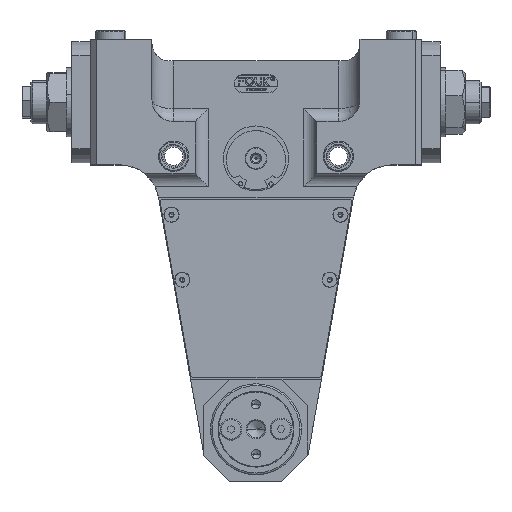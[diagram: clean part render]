
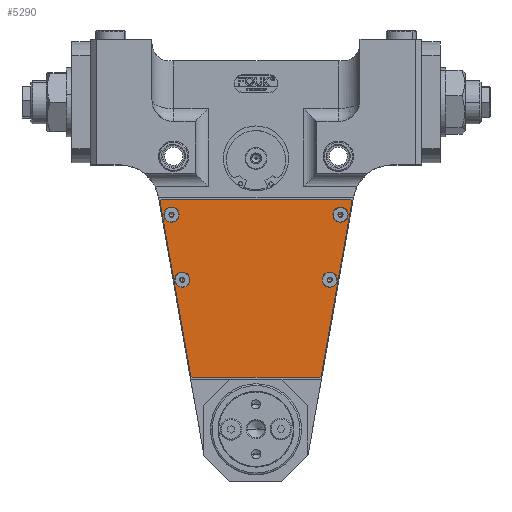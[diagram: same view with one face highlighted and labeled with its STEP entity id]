
A CAD part, top view. The second image highlights one B-rep face of the part: STEP entity #5290.
In plain terms, the highlighted planar face has unit normal (0, 0, 1) as drawn and (0, 1, 0) by its records, which use the part's own axes.
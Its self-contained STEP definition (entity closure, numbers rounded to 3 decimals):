
#729 = CARTESIAN_POINT ( 'NONE',  ( -34., 2., -41.5 ) ) ;
#1871 = CIRCLE ( 'NONE', #40702, 3.5 ) ;
#2258 = VERTEX_POINT ( 'NONE', #5914 ) ;
#2343 = VERTEX_POINT ( 'NONE', #31703 ) ;
#2353 = EDGE_LOOP ( 'NONE', ( #36766, #3675 ) ) ;
#3675 = ORIENTED_EDGE ( 'NONE', *, *, #44816, .F. ) ;
#4254 = DIRECTION ( 'NONE',  ( 0., 0., 1. ) ) ;
#4447 = AXIS2_PLACEMENT_3D ( 'NONE', #13728, #42360, #41658 ) ;
#4550 = EDGE_CURVE ( 'NONE', #13744, #2343, #25316, .T. ) ;
#4574 = ORIENTED_EDGE ( 'NONE', *, *, #36268, .T. ) ;
#4706 = DIRECTION ( 'NONE',  ( 0., 0., 1. ) ) ;
#4820 = AXIS2_PLACEMENT_3D ( 'NONE', #21253, #5458, #38092 ) ;
#4830 = DIRECTION ( 'NONE',  ( 0., 1., 0. ) ) ;
#5269 = CARTESIAN_POINT ( 'NONE',  ( 34., 2., -48.5 ) ) ;
#5290 = ADVANCED_FACE ( 'NONE', ( #47597, #35428, #7169, #50189, #18113 ), #34151, .T. ) ;
#5379 = ORIENTED_EDGE ( 'NONE', *, *, #34060, .F. ) ;
#5458 = DIRECTION ( 'NONE',  ( 0., 1., 0. ) ) ;
#5914 = CARTESIAN_POINT ( 'NONE',  ( -29.161, 2., 0. ) ) ;
#5971 = ORIENTED_EDGE ( 'NONE', *, *, #39002, .F. ) ;
#6063 = DIRECTION ( 'NONE',  ( 0., 0., 1. ) ) ;
#6230 = EDGE_CURVE ( 'NONE', #17165, #34585, #19336, .T. ) ;
#6670 = DIRECTION ( 'NONE',  ( 0., 1., 0. ) ) ;
#7169 = FACE_BOUND ( 'NONE', #34786, .T. ) ;
#7852 = VERTEX_POINT ( 'NONE', #34294 ) ;
#8026 = AXIS2_PLACEMENT_3D ( 'NONE', #25101, #4830, #16525 ) ;
#8166 = DIRECTION ( 'NONE',  ( 0., 0., 1. ) ) ;
#8310 = DIRECTION ( 'NONE',  ( 0., 0., 1. ) ) ;
#9327 = AXIS2_PLACEMENT_3D ( 'NONE', #43292, #23405, #47421 ) ;
#9975 = VECTOR ( 'NONE', #28213, 1000. ) ;
#10066 = CIRCLE ( 'NONE', #15926, 1. ) ;
#11406 = CARTESIAN_POINT ( 'NONE',  ( -30.146, 2., -0.826 ) ) ;
#11444 = CARTESIAN_POINT ( 'NONE',  ( -39., 2., -75. ) ) ;
#11598 = DIRECTION ( 'NONE',  ( 0., 1., 0. ) ) ;
#11980 = EDGE_LOOP ( 'NONE', ( #30671, #21755 ) ) ;
#12806 = ORIENTED_EDGE ( 'NONE', *, *, #19024, .F. ) ;
#13524 = CARTESIAN_POINT ( 'NONE',  ( -29.161, 2., -1. ) ) ;
#13728 = CARTESIAN_POINT ( 'NONE',  ( 39., 2., -75. ) ) ;
#13744 = VERTEX_POINT ( 'NONE', #49157 ) ;
#13979 = ORIENTED_EDGE ( 'NONE', *, *, #31067, .T. ) ;
#14110 = CARTESIAN_POINT ( 'NONE',  ( 34., 2., -41.5 ) ) ;
#14330 = ORIENTED_EDGE ( 'NONE', *, *, #24848, .T. ) ;
#14362 = EDGE_CURVE ( 'NONE', #47640, #23132, #32224, .T. ) ;
#14712 = AXIS2_PLACEMENT_3D ( 'NONE', #28800, #20006, #8166 ) ;
#15295 = CARTESIAN_POINT ( 'NONE',  ( -44.252, 2., -80.826 ) ) ;
#15828 = ORIENTED_EDGE ( 'NONE', *, *, #17955, .T. ) ;
#15926 = AXIS2_PLACEMENT_3D ( 'NONE', #19215, #6670, #27822 ) ;
#16525 = DIRECTION ( 'NONE',  ( 0., 0., 1. ) ) ;
#17165 = VERTEX_POINT ( 'NONE', #22574 ) ;
#17571 = AXIS2_PLACEMENT_3D ( 'NONE', #45425, #45598, #8310 ) ;
#17863 = DIRECTION ( 'NONE',  ( 0., 1., 0. ) ) ;
#17955 = EDGE_CURVE ( 'NONE', #52794, #30694, #49733, .T. ) ;
#17961 = CIRCLE ( 'NONE', #17571, 3.5 ) ;
#18113 = FACE_OUTER_BOUND ( 'NONE', #49216, .T. ) ;
#18274 = ORIENTED_EDGE ( 'NONE', *, *, #14362, .T. ) ;
#19024 = EDGE_CURVE ( 'NONE', #45216, #19966, #22807, .T. ) ;
#19215 = CARTESIAN_POINT ( 'NONE',  ( 29.161, 2., -1. ) ) ;
#19299 = ORIENTED_EDGE ( 'NONE', *, *, #29130, .F. ) ;
#19336 = CIRCLE ( 'NONE', #14712, 3.5 ) ;
#19446 = CIRCLE ( 'NONE', #4447, 3.5 ) ;
#19966 = VERTEX_POINT ( 'NONE', #5269 ) ;
#20006 = DIRECTION ( 'NONE',  ( 0., 1., 0. ) ) ;
#20515 = VERTEX_POINT ( 'NONE', #37641 ) ;
#21253 = CARTESIAN_POINT ( 'NONE',  ( -34., 2., -45. ) ) ;
#21450 = VERTEX_POINT ( 'NONE', #44306 ) ;
#21755 = ORIENTED_EDGE ( 'NONE', *, *, #6230, .F. ) ;
#22248 = CARTESIAN_POINT ( 'NONE',  ( 44.459, 2., -82. ) ) ;
#22574 = CARTESIAN_POINT ( 'NONE',  ( -34., 2., -48.5 ) ) ;
#22807 = CIRCLE ( 'NONE', #43543, 3.5 ) ;
#23129 = EDGE_CURVE ( 'NONE', #2343, #47640, #48136, .T. ) ;
#23132 = VERTEX_POINT ( 'NONE', #11406 ) ;
#23169 = CIRCLE ( 'NONE', #4820, 3.5 ) ;
#23405 = DIRECTION ( 'NONE',  ( 0., 1., 0. ) ) ;
#23440 = DIRECTION ( 'NONE',  ( 0.174, 0., 0.985 ) ) ;
#24524 = DIRECTION ( 'NONE',  ( 0., 1., 0. ) ) ;
#24848 = EDGE_CURVE ( 'NONE', #30694, #13744, #40988, .T. ) ;
#25101 = CARTESIAN_POINT ( 'NONE',  ( 34., 2., -45. ) ) ;
#25316 = LINE ( 'NONE', #22248, #50350 ) ;
#26450 = CARTESIAN_POINT ( 'NONE',  ( 0., 2., 0. ) ) ;
#27094 = ORIENTED_EDGE ( 'NONE', *, *, #43837, .T. ) ;
#27332 = LINE ( 'NONE', #38462, #48508 ) ;
#27751 = AXIS2_PLACEMENT_3D ( 'NONE', #13524, #29279, #4706 ) ;
#27822 = DIRECTION ( 'NONE',  ( 0., 0., 1. ) ) ;
#28213 = DIRECTION ( 'NONE',  ( 0.174, 0., -0.985 ) ) ;
#28286 = CARTESIAN_POINT ( 'NONE',  ( 34., 2., -45. ) ) ;
#28800 = CARTESIAN_POINT ( 'NONE',  ( -34., 2., -45. ) ) ;
#29130 = EDGE_CURVE ( 'NONE', #49253, #20515, #1871, .T. ) ;
#29279 = DIRECTION ( 'NONE',  ( 0., 1., 0. ) ) ;
#30372 = CIRCLE ( 'NONE', #8026, 3.5 ) ;
#30671 = ORIENTED_EDGE ( 'NONE', *, *, #45720, .F. ) ;
#30694 = VERTEX_POINT ( 'NONE', #51205 ) ;
#30798 = CARTESIAN_POINT ( 'NONE',  ( 39., 2., -75. ) ) ;
#31067 = EDGE_CURVE ( 'NONE', #2258, #21450, #27332, .T. ) ;
#31413 = VERTEX_POINT ( 'NONE', #48622 ) ;
#31703 = CARTESIAN_POINT ( 'NONE',  ( -43.267, 2., -82. ) ) ;
#32224 = LINE ( 'NONE', #35626, #51461 ) ;
#34060 = EDGE_CURVE ( 'NONE', #20515, #49253, #19446, .T. ) ;
#34093 = CARTESIAN_POINT ( 'NONE',  ( 30.146, 2., -0.826 ) ) ;
#34151 = PLANE ( 'NONE',  #40712 ) ;
#34294 = CARTESIAN_POINT ( 'NONE',  ( -39., 2., -71.5 ) ) ;
#34585 = VERTEX_POINT ( 'NONE', #729 ) ;
#34786 = EDGE_LOOP ( 'NONE', ( #12806, #5971 ) ) ;
#34963 = DIRECTION ( 'NONE',  ( -1., 0., 0. ) ) ;
#35152 = ORIENTED_EDGE ( 'NONE', *, *, #23129, .T. ) ;
#35428 = FACE_BOUND ( 'NONE', #11980, .T. ) ;
#35626 = CARTESIAN_POINT ( 'NONE',  ( -44.459, 2., -82. ) ) ;
#36268 = EDGE_CURVE ( 'NONE', #21450, #52794, #10066, .T. ) ;
#36766 = ORIENTED_EDGE ( 'NONE', *, *, #47366, .F. ) ;
#37641 = CARTESIAN_POINT ( 'NONE',  ( 39., 2., -71.5 ) ) ;
#38092 = DIRECTION ( 'NONE',  ( 0., 0., 1. ) ) ;
#38290 = DIRECTION ( 'NONE',  ( 1., 0., 0. ) ) ;
#38462 = CARTESIAN_POINT ( 'NONE',  ( -30., 2., 0. ) ) ;
#39002 = EDGE_CURVE ( 'NONE', #19966, #45216, #30372, .T. ) ;
#39670 = CIRCLE ( 'NONE', #27751, 1. ) ;
#40091 = DIRECTION ( 'NONE',  ( 0., 1., 0. ) ) ;
#40702 = AXIS2_PLACEMENT_3D ( 'NONE', #30798, #51563, #6063 ) ;
#40712 = AXIS2_PLACEMENT_3D ( 'NONE', #26450, #17863, #46519 ) ;
#40988 = CIRCLE ( 'NONE', #51936, 1. ) ;
#41658 = DIRECTION ( 'NONE',  ( 0., 0., 1. ) ) ;
#42360 = DIRECTION ( 'NONE',  ( 0., 1., 0. ) ) ;
#43292 = CARTESIAN_POINT ( 'NONE',  ( -43.267, 2., -81. ) ) ;
#43543 = AXIS2_PLACEMENT_3D ( 'NONE', #28286, #24524, #4254 ) ;
#43837 = EDGE_CURVE ( 'NONE', #23132, #2258, #39670, .T. ) ;
#44000 = DIRECTION ( 'NONE',  ( 0., 0., 1. ) ) ;
#44195 = DIRECTION ( 'NONE',  ( 0., 0., 1. ) ) ;
#44306 = CARTESIAN_POINT ( 'NONE',  ( 29.161, 2., 0. ) ) ;
#44816 = EDGE_CURVE ( 'NONE', #31413, #7852, #46988, .T. ) ;
#45216 = VERTEX_POINT ( 'NONE', #14110 ) ;
#45425 = CARTESIAN_POINT ( 'NONE',  ( -39., 2., -75. ) ) ;
#45598 = DIRECTION ( 'NONE',  ( 0., 1., 0. ) ) ;
#45720 = EDGE_CURVE ( 'NONE', #34585, #17165, #23169, .T. ) ;
#45798 = CARTESIAN_POINT ( 'NONE',  ( 39., 2., -78.5 ) ) ;
#46519 = DIRECTION ( 'NONE',  ( 0., 0., 1. ) ) ;
#46988 = CIRCLE ( 'NONE', #52842, 3.5 ) ;
#47022 = ORIENTED_EDGE ( 'NONE', *, *, #4550, .T. ) ;
#47366 = EDGE_CURVE ( 'NONE', #7852, #31413, #17961, .T. ) ;
#47421 = DIRECTION ( 'NONE',  ( 0., 0., 1. ) ) ;
#47597 = FACE_BOUND ( 'NONE', #2353, .T. ) ;
#47640 = VERTEX_POINT ( 'NONE', #15295 ) ;
#48121 = CARTESIAN_POINT ( 'NONE',  ( 43.267, 2., -81. ) ) ;
#48136 = CIRCLE ( 'NONE', #9327, 1. ) ;
#48232 = EDGE_LOOP ( 'NONE', ( #5379, #19299 ) ) ;
#48277 = CARTESIAN_POINT ( 'NONE',  ( 30., 2., 0. ) ) ;
#48508 = VECTOR ( 'NONE', #38290, 1000. ) ;
#48622 = CARTESIAN_POINT ( 'NONE',  ( -39., 2., -78.5 ) ) ;
#49157 = CARTESIAN_POINT ( 'NONE',  ( 43.267, 2., -82. ) ) ;
#49216 = EDGE_LOOP ( 'NONE', ( #47022, #35152, #18274, #27094, #13979, #4574, #15828, #14330 ) ) ;
#49253 = VERTEX_POINT ( 'NONE', #45798 ) ;
#49733 = LINE ( 'NONE', #48277, #9975 ) ;
#50189 = FACE_BOUND ( 'NONE', #48232, .T. ) ;
#50350 = VECTOR ( 'NONE', #34963, 1000. ) ;
#51205 = CARTESIAN_POINT ( 'NONE',  ( 44.252, 2., -80.826 ) ) ;
#51461 = VECTOR ( 'NONE', #23440, 1000. ) ;
#51563 = DIRECTION ( 'NONE',  ( 0., 1., 0. ) ) ;
#51936 = AXIS2_PLACEMENT_3D ( 'NONE', #48121, #11598, #44000 ) ;
#52794 = VERTEX_POINT ( 'NONE', #34093 ) ;
#52842 = AXIS2_PLACEMENT_3D ( 'NONE', #11444, #40091, #44195 ) ;
